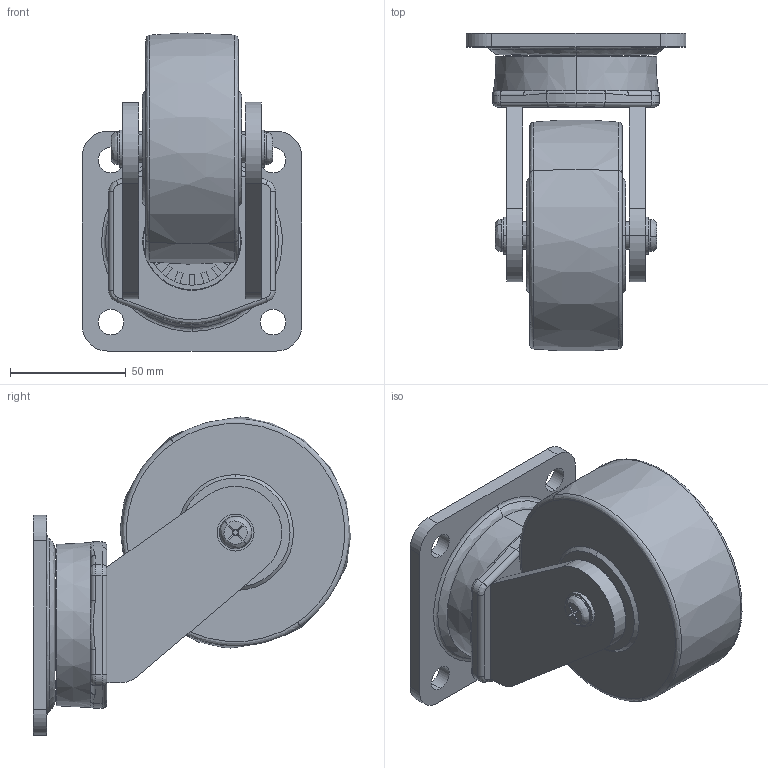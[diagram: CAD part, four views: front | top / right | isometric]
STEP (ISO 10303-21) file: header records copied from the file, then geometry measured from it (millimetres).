
FILE_DESCRIPTION (( 'STEP AP203' ), '1' );
FILE_NAME ('YKPH40-100SF-M.STEP', '2021-08-16T03:33:43', ( '' ), ( '' ), 'SwSTEP 2.0', 'SolidWorks 2018', '' );
FILE_SCHEMA (( 'CONFIG_CONTROL_DESIGN' ));
Length unit declared in the file: millimetre
Products named in the file (1): YKPH40-100SF-M
Bounding box: 95 x 137.37 x 137.44 mm (x, y, z)
Volume: 478826.8 mm3; surface area: 111674.5 mm2
Topology: 15 solids, 15 shells, 1078 faces, 2851 edges, 1888 vertices
Faces by surface type: plane 714, cylinder 196, bspline 140, cone 28
Entity records: 40819 total; most frequent: CARTESIAN_POINT 16093, ORIENTED_EDGE 5698, DIRECTION 4661, EDGE_CURVE 2849, VERTEX_POINT 1888, AXIS2_PLACEMENT_3D 1733, EDGE_LOOP 1197, VECTOR 1195
